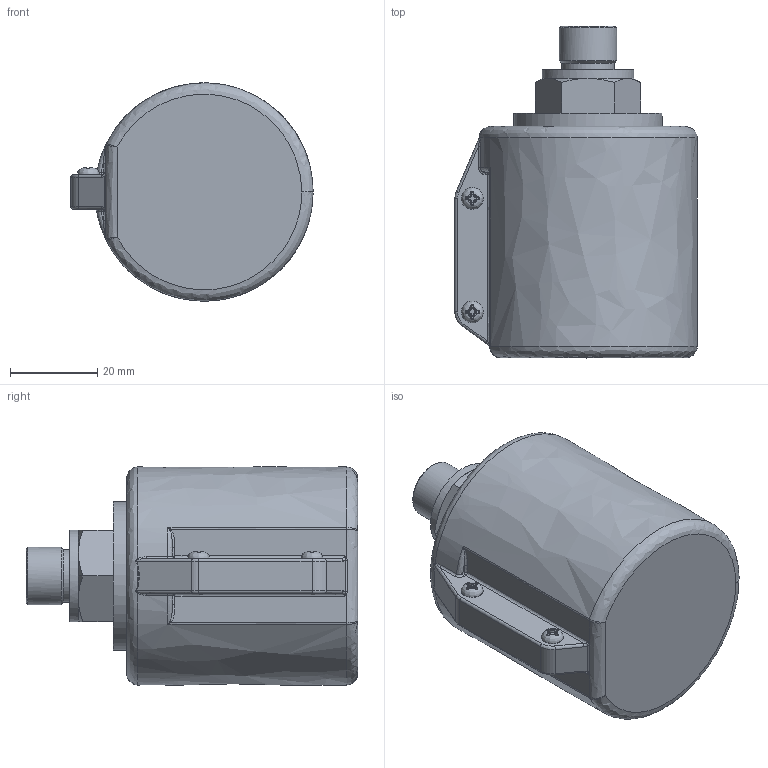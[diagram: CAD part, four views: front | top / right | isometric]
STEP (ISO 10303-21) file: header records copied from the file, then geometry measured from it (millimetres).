
FILE_DESCRIPTION((''),'2;1');
FILE_NAME('U:\Users\a.heinl\Unterdruckschalter.stp', '2013-05-14T11:46:49',('User'),('SDRC'),'I-DEAS Master Series 9','UNIX', 'Yes');
FILE_SCHEMA(('AUTOMOTIVE_DESIGN { 1 0 10303 214 1 1 1 1 }'));
Length unit declared in the file: millimetre
Products named in the file (1): 12187900(318722)
Bounding box: 55.5 x 76 x 50 mm (x, y, z)
Volume: 112385.3 mm3; surface area: 13920 mm2
Topology: 1 solids, 1 shells, 266 faces, 644 edges, 396 vertices
Faces by surface type: bspline 266
Entity records: 9168 total; most frequent: CARTESIAN_POINT 5798, ORIENTED_EDGE 1172, EDGE_CURVE 586, VERTEX_POINT 327, B_SPLINE_CURVE_WITH_KNOTS 319, EDGE_LOOP 271, FACE_OUTER_BOUND 266, ADVANCED_FACE 266
